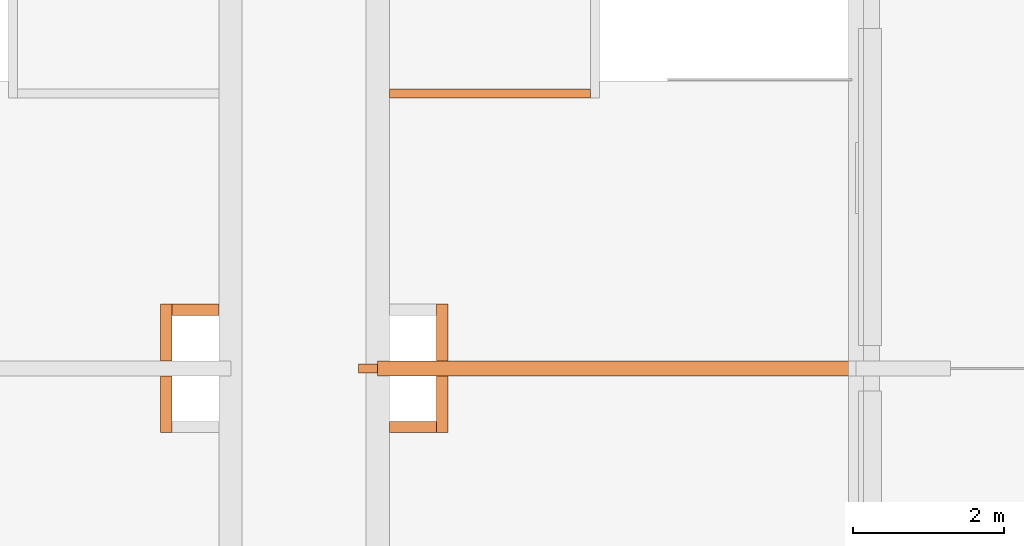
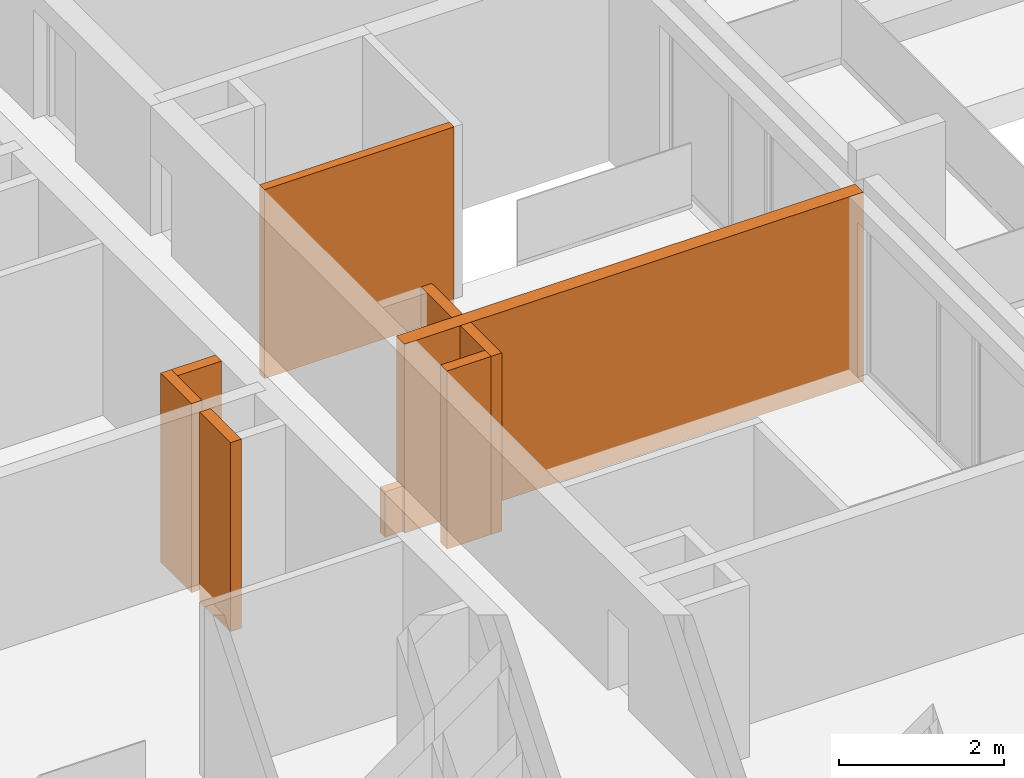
# One storey, part 15 of 30: 8 proxies.
"""IFC2X3 building model written with IfcOpenShell, lengths in millimetres."""

from ifc_helpers import new_model, entity, si_unit, converted_unit, derived_unit, money_unit, direction, frame, origin_with_axes, place, context, subcontext, project, spatial, faceted_brep, material, type_object, element, save


model = new_model("IFC2X3")

# Units and contexts
model_context = context("Model", 3, precision=0.01, world=origin_with_axes(), true_north=direction((0.34421633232, 0.938890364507)))
body_context = subcontext(model_context, "Body", "Model", "MODEL_VIEW")
ifc_project = project(units=[si_unit("LENGTHUNIT", "METRE", prefix="MILLI"), si_unit("AREAUNIT", "SQUARE_METRE"), si_unit("VOLUMEUNIT", "CUBIC_METRE"), converted_unit("PLANEANGLEUNIT", "DEGREE", entity("IfcPlaneAngleMeasure", 0.0174532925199), si_unit("PLANEANGLEUNIT", "RADIAN"), dimensions=[0, 0, 0, 0, 0, 0, 0]), si_unit("SOLIDANGLEUNIT", "STERADIAN"), money_unit("USD"), converted_unit("TIMEUNIT", "Year", entity("IfcTimeMeasure", 31556926.0), si_unit("TIMEUNIT", "SECOND"), dimensions=[0, 0, 1, 0, 0, 0, 0]), si_unit("MASSUNIT", "GRAM", prefix="KILO"), si_unit("THERMODYNAMICTEMPERATUREUNIT", "DEGREE_CELSIUS"), si_unit("LUMINOUSINTENSITYUNIT", "LUMEN"), si_unit("ENERGYUNIT", "JOULE", prefix="MEGA"), derived_unit("THERMALCONDUCTANCEUNIT", [(si_unit("POWERUNIT", "WATT"), 1), (si_unit("LENGTHUNIT", "METRE"), -1), (si_unit("THERMODYNAMICTEMPERATUREUNIT", "KELVIN"), -1)]), derived_unit("SPECIFICHEATCAPACITYUNIT", [(si_unit("ENERGYUNIT", "JOULE"), 1), (si_unit("MASSUNIT", "GRAM", prefix="KILO"), -1), (si_unit("THERMODYNAMICTEMPERATUREUNIT", "KELVIN"), -1)]), derived_unit("MASSDENSITYUNIT", [(si_unit("MASSUNIT", "GRAM", prefix="KILO"), 1), (si_unit("VOLUMEUNIT", "CUBIC_METRE"), -1)])], contexts=[model_context])

# Site, building, storey
site_placement = place(None, origin_with_axes())
site = spatial("IfcSite", under=ifc_project, at=site_placement, Name="USTRONIE MORSKIE", CompositionType="ELEMENT")
building_placement = place(site_placement, origin_with_axes())
building = spatial("IfcBuilding", under=site, at=building_placement, Name="Budynek", CompositionType="ELEMENT")
storey_placement = place(building_placement, frame((0.0, 0.0, 16000.0), z_axis=(0.0, 0.0, 1.0), x_axis=(1.0, 0.0, 0.0)))
storey = spatial("IfcBuildingStorey", under=building, at=storey_placement, Name="ANTRESOLA - KOND. TECHNICZNA", CompositionType="ELEMENT", Elevation=16000.0)

# Proxies
ifc_material_1 = material(Name="Bloczki silikatowe")
building_element_proxy_type_1 = type_object("IfcBuildingElementProxyType", Name="Bloczki silikatowe 120", PredefinedType="NOTDEFINED")
proxy_1_placement = place(storey_placement, frame((362417.920919, 724641.180542, -159.999998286), z_axis=(0.0, 0.0, 1.0), x_axis=(-1.0, 0.0, 0.0)))
element("IfcBuildingElementProxy", 1, at=proxy_1_placement, inside=storey, type_object=building_element_proxy_type_1, material=ifc_material_1, Name="SW-04", context=body_context, shape_type="Brep", body=[
    faceted_brep([(2720.0, -59.9999999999, 2799.99999829), (2720.0, 59.9999999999, 2799.99999829), (60.0, 59.9999999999, 2799.99999829), (60.0, -59.9999999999, 2799.99999829), (2720.0, -59.9999999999, 0.0), (2720.0, 59.9999999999, 0.0), (60.0, 59.9999999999, 0.0), (60.0, -59.9999999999, 0.0)], [[[0, 1, 2, 3]], [[1, 0, 4, 5]], [[1, 5, 6, 2]], [[7, 3, 2, 6]], [[4, 0, 3, 7]], [[5, 4, 7, 6]]]),
])
building_element_proxy_type_2 = type_object("IfcBuildingElementProxyType", Name="Bloczki silikatowe 150", PredefinedType="NOTDEFINED")
proxy_2_placement = place(storey_placement, frame((360317.920919, 721001.216354, 0.0), z_axis=(0.0, 0.0, 1.0), x_axis=(0.0, 1.0, 0.0)))
element("IfcBuildingElementProxy", 2, at=proxy_2_placement, inside=storey, type_object=building_element_proxy_type_2, material=ifc_material_1, Name="SW-03", context=body_context, shape_type="Brep", body=[
    faceted_brep([(849.998063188, 0.0, 0.0), (849.998063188, 0.0, 2640.0), (849.998063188, -150.0, 2640.0), (849.998063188, -150.0, 0.0), (99.9999999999, 0.0, -2.12259188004e-06), (99.9999999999, 0.0, 2640.0), (100.000138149, -150.0, 2640.0), (100.000138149, -150.0, -2.46494558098e-06)], [[[0, 1, 2, 3]], [[4, 5, 1, 0]], [[5, 6, 2, 1]], [[3, 2, 6, 7]], [[0, 3, 7, 4]], [[7, 6, 5, 4]]]),
])
proxy_3_placement = place(storey_placement, frame((356817.920919, 721701.214417, -160.0), z_axis=(0.0, 0.0, 1.0), x_axis=(1.0, 0.0, 0.0)))
element("IfcBuildingElementProxy", 3, at=proxy_3_placement, inside=storey, type_object=building_element_proxy_type_2, material=ifc_material_1, Name="SW-03", context=body_context, shape_type="Brep", body=[
    faceted_brep([(620.0, 150.0, 0.0), (620.0, 0.0, 0.0), (0.0, 0.0, 0.0), (0.0, 150.0, 0.0), (620.0, 150.0, 2800.0), (620.0, 0.0, 2800.0), (0.0, 0.0, 2800.0), (0.0, 150.0, 2800.0)], [[[0, 1, 2, 3]], [[1, 0, 4, 5]], [[1, 5, 6, 2]], [[7, 3, 2, 6]], [[4, 0, 3, 7]], [[5, 4, 7, 6]]]),
])
proxy_4_placement = place(storey_placement, frame((356817.920919, 721001.21313, -160.0), z_axis=(0.0, 0.0, 1.0), x_axis=(0.0, 1.0, 0.0)))
element("IfcBuildingElementProxy", 4, at=proxy_4_placement, inside=storey, type_object=building_element_proxy_type_2, material=ifc_material_1, Name="SW-03", context=body_context, shape_type="Brep", body=[
    faceted_brep([(850.00128666, 150.0, 2800.0), (99.9998618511, 150.0, 2800.0), (99.9999999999, 0.0, 2800.0), (850.00128666, 0.0, 2800.0), (850.00128666, 150.0, 0.0), (99.9998618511, 150.0, -5.0936192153e-05), (99.9999999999, 0.0, -5.0936192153e-05), (850.00128666, 0.0, 0.0)], [[[0, 1, 2, 3]], [[4, 5, 1, 0]], [[5, 6, 2, 1]], [[3, 2, 6, 7]], [[0, 3, 7, 4]], [[7, 6, 5, 4]]]),
])
proxy_5_placement = place(storey_placement, frame((360317.920919, 721001.216354, 0.0), z_axis=(0.0, 0.0, 1.0), x_axis=(0.0, -1.0, 0.0)))
element("IfcBuildingElementProxy", 5, at=proxy_5_placement, inside=storey, type_object=building_element_proxy_type_2, material=ifc_material_1, Name="SW-03", context=body_context, shape_type="Brep", body=[
    faceted_brep([(100.0, 0.0, 0.0), (100.0, 0.0, 2640.0), (99.9998618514, 150.0, 2640.0), (99.9998618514, 150.0, 0.0), (850.001936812, 0.0, 0.0), (850.001936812, 0.0, 2640.0), (850.001936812, 150.0, 2640.0), (850.001936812, 150.0, 0.0)], [[[0, 1, 2, 3]], [[4, 5, 1, 0]], [[5, 6, 2, 1]], [[3, 2, 6, 7]], [[7, 4, 0, 3]], [[7, 6, 5, 4]]]),
])
proxy_6_placement = place(storey_placement, frame((360317.920919, 720301.214417, 0.0), z_axis=(0.0, 0.0, 1.0), x_axis=(-1.0, 0.0, 0.0)))
element("IfcBuildingElementProxy", 6, at=proxy_6_placement, inside=storey, type_object=building_element_proxy_type_2, material=ifc_material_1, Name="SW-03", context=body_context, shape_type="Brep", body=[
    faceted_brep([(620.0, 0.0, 0.0), (620.0, 0.0, 2640.0), (0.0, 0.0, 2640.0), (0.0, 0.0, 0.0), (620.0, 150.0, 0.0), (619.999832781, 150.0, 2640.0), (0.0, 150.0, 2640.0), (0.0, 150.0, 0.0)], [[[0, 1, 2, 3]], [[4, 5, 1, 0]], [[5, 6, 2, 1]], [[3, 2, 6, 7]], [[7, 4, 0, 3]], [[7, 6, 5, 4]]]),
])
proxy_7_placement = place(storey_placement, frame((356817.920919, 721001.21313, -160.0), z_axis=(0.0, 0.0, 1.0), x_axis=(0.0, -1.0, 0.0)))
element("IfcBuildingElementProxy", 7, at=proxy_7_placement, inside=storey, type_object=building_element_proxy_type_2, material=ifc_material_1, Name="SW-03", context=body_context, shape_type="Brep", body=[
    faceted_brep([(849.998713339, -150.0, 2800.0), (849.998713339, 0.0, 2800.0), (100.0, 0.0, 2800.0), (100.000138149, -150.0, 2800.0), (849.998713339, -150.0, 0.0), (849.998713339, 0.0, 0.0), (100.0, 0.0, 0.0), (100.000138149, -150.0, 0.0)], [[[0, 1, 2, 3]], [[1, 0, 4, 5]], [[1, 5, 6, 2]], [[7, 3, 2, 6]], [[4, 0, 3, 7]], [[5, 4, 7, 6]]]),
])
ifc_material_2 = material(Name="Beton konstrukcyjny B25")
building_element_proxy_type_3 = type_object("IfcBuildingElementProxyType", Name="Beton konstrukcyjny B25 200", PredefinedType="NOTDEFINED")
proxy_8_placement = place(storey_placement, frame((365867.920919, 721001.221465, -160.0), z_axis=(0.0, 0.0, 1.0), x_axis=(-1.0, -9.20992224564e-07, 0.0)))
element("IfcBuildingElementProxy", 8, at=proxy_8_placement, inside=storey, type_object=building_element_proxy_type_3, material=ifc_material_2, Name="SW-01", context=body_context, shape_type="Brep", body=[
    faceted_brep([(6330.00005526, 59.994478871, 675.0), (6329.99994474, -60.0055211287, 675.0), (6479.99994474, -60.0055211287, 675.0), (6480.00005526, 59.994478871, 675.0), (6329.9999079, -99.9999999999, 2800.0), (6329.9999079, -99.9999999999, 0.0), (6329.99994474, -60.0055211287, 0.0), (6330.00005526, 59.994478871, 0.0), (6330.0000921, 100.0, 0.0), (6330.0000921, 100.0, 2800.0), (6479.99994474, -60.0055211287, 0.0), (6579.99994474, -60.0057513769, 675.0), (6580.00005526, 59.9942486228, 675.0), (6480.00005526, 59.994478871, 0.0), (-100.000092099, -99.9999999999, 2800.0), (-100.000092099, -99.9999999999, 0.0), (-99.9999079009, 100.0, 0.0), (6580.00005526, 59.994340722, 0.0), (6579.99994474, -60.0057513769, 0.0), (-99.9999079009, 100.0, 2800.0)], [[[0, 1, 2, 3]], [[4, 5, 6, 1, 0, 7, 8, 9]], [[1, 6, 10, 2]], [[2, 11, 12, 3]], [[3, 13, 7, 0]], [[14, 15, 5, 4]], [[15, 16, 8, 7, 13, 17, 18, 10, 6, 5]], [[16, 19, 9, 8]], [[9, 19, 14, 4]], [[10, 18, 11, 2]], [[12, 11, 18, 17]], [[3, 12, 17, 13]], [[14, 19, 16, 15]]]),
])

save(model, "model.ifc")
